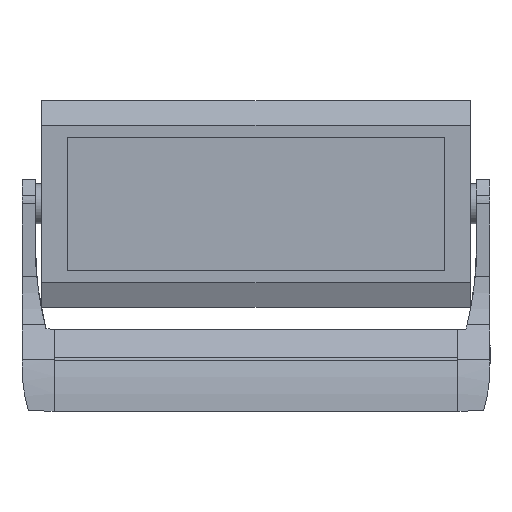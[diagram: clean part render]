
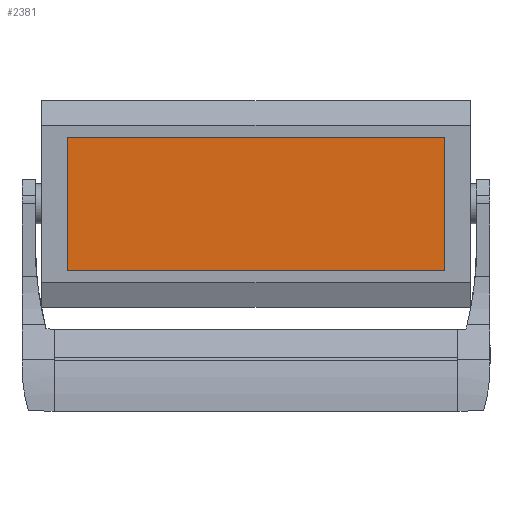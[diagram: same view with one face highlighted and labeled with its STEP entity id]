
A CAD part, left-side view. The second image highlights one B-rep face of the part: STEP entity #2381.
In plain terms, the highlighted planar face has unit normal (-1, 0, 0).
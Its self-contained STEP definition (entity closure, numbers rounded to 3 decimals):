
#357=LINE('',#3478,#518);
#359=LINE('',#3482,#520);
#361=LINE('',#3486,#522);
#363=LINE('',#3490,#524);
#518=VECTOR('',#2868,1000.);
#520=VECTOR('',#2872,1000.);
#522=VECTOR('',#2876,1000.);
#524=VECTOR('',#2880,1000.);
#740=ORIENTED_EDGE('',*,*,#1413,.F.);
#741=ORIENTED_EDGE('',*,*,#1419,.F.);
#742=ORIENTED_EDGE('',*,*,#1417,.F.);
#743=ORIENTED_EDGE('',*,*,#1415,.F.);
#1413=EDGE_CURVE('',#1759,#1760,#357,.T.);
#1415=EDGE_CURVE('',#1760,#1761,#359,.T.);
#1417=EDGE_CURVE('',#1761,#1762,#361,.T.);
#1419=EDGE_CURVE('',#1762,#1759,#363,.T.);
#1759=VERTEX_POINT('',#3477);
#1760=VERTEX_POINT('',#3479);
#1761=VERTEX_POINT('',#3483);
#1762=VERTEX_POINT('',#3487);
#2001=EDGE_LOOP('',(#740,#741,#742,#743));
#2159=FACE_BOUND('',#2001,.T.);
#2316=PLANE('',#2580);
#2381=ADVANCED_FACE('',(#2159),#2316,.F.);
#2580=AXIS2_PLACEMENT_3D('',#3491,#2881,#2882);
#2868=DIRECTION('',(0.,0.,1.));
#2872=DIRECTION('',(0.,-1.,0.));
#2876=DIRECTION('',(0.,0.,-1.));
#2880=DIRECTION('',(0.,1.,0.));
#2881=DIRECTION('',(1.,0.,0.));
#2882=DIRECTION('',(0.,0.,-1.));
#3477=CARTESIAN_POINT('',(-0.5,188.669,-66.696));
#3478=CARTESIAN_POINT('',(-0.5,188.669,-66.696));
#3479=CARTESIAN_POINT('',(-0.5,188.669,66.696));
#3482=CARTESIAN_POINT('',(-0.5,188.669,66.696));
#3483=CARTESIAN_POINT('',(-0.5,-188.669,66.696));
#3486=CARTESIAN_POINT('',(-0.5,-188.669,66.696));
#3487=CARTESIAN_POINT('',(-0.5,-188.669,-66.696));
#3490=CARTESIAN_POINT('',(-0.5,-188.669,-66.696));
#3491=CARTESIAN_POINT('',(-0.5,0.,0.));
